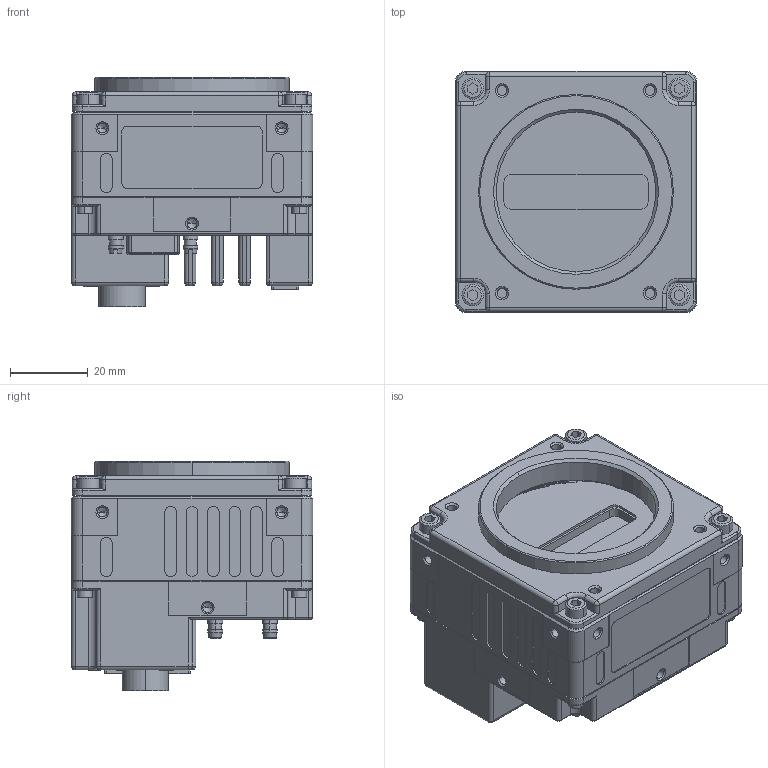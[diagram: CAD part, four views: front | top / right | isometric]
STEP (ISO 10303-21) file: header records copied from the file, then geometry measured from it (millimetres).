
FILE_DESCRIPTION((''),'2;1');
FILE_NAME('SW-4000M-PMCL-M42A_MOCK','2016-11-08T',('aso'),(''),'PRO/ENGINEER BY PARAMETRIC TECHNOLOGY CORPORATION, 2014200','PRO/ENGINEER BY PARAMETRIC TECHNOLOGY CORPORATION, 2014200','');
FILE_SCHEMA(('CONFIG_CONTROL_DESIGN'));
Products named in the file (1): SW-4000M-PMCL-M42A_MOCK
Bounding box: 62 x 62 x 58.8 mm (x, y, z)
Surface area: 51643 mm2 (no closed solid volume)
Topology: 0 solids, 26 shells, 3627 faces, 10132 edges, 6530 vertices
Faces by surface type: plane 2359, cylinder 880, cone 232, torus 79, sphere 47, bspline 30
Entity records: 118993 total; most frequent: CARTESIAN_POINT 25143, ORIENTED_EDGE 19881, DIRECTION 19122, EDGE_CURVE 10030, VECTOR 7170, LINE 7170, VERTEX_POINT 6530, AXIS2_PLACEMENT_3D 5976
